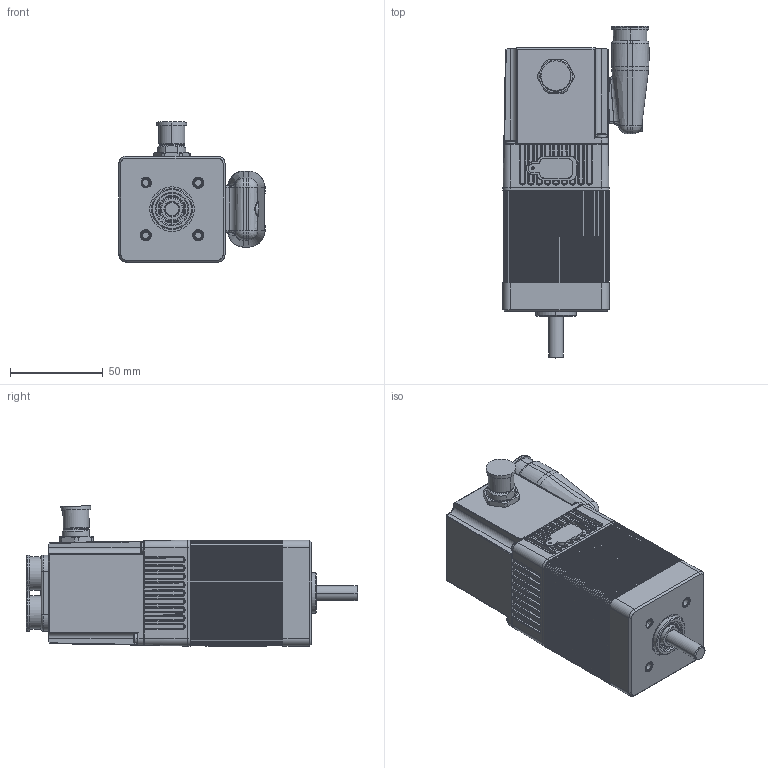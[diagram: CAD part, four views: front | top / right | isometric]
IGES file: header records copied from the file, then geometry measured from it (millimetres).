
Start section:  PTC IGES file: 80180301.igs
Global section: file name: 80180301.igs; native system: Creo Elements/Pro by Parametric Technology Corporation; preprocessor: 2012090; author: RGAMET01; organization: Unknown; date: 20150409.103933; units: millimetre
Bounding box: 78.8 x 178.97 x 75.66 mm (x, y, z)
Surface area: 66246.8 mm2 (no closed solid volume)
Topology: 0 solids, 0 shells, 2559 faces, 12294 edges, 12284 vertices
Faces by surface type: revolution 1324, bspline 1235
